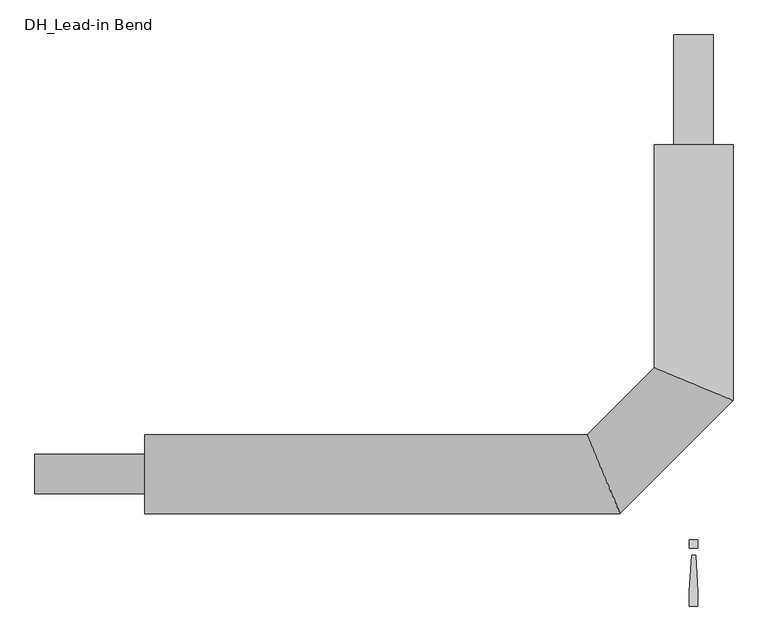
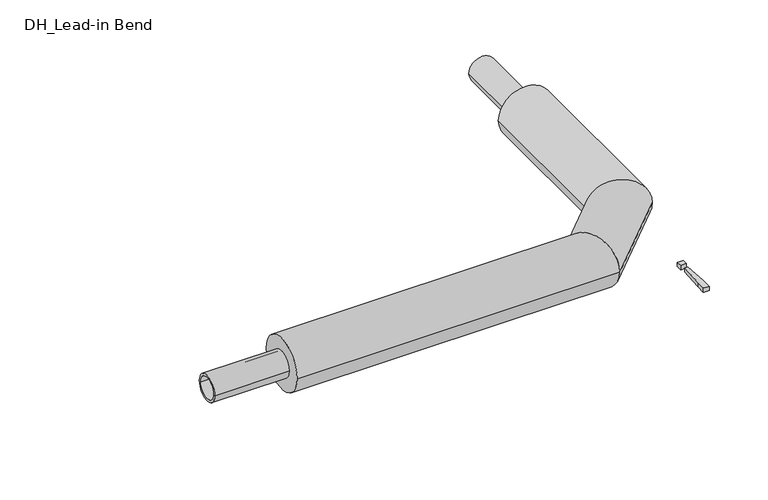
"""IFC4 building model written with IfcOpenShell, lengths in millimetres: pipe fitting geometry, DH_Lead-in Bend : INSULPEX UNO + 11 Heating."""

from ifc_helpers import new_model, si_unit, point, frame, origin, origin_with_axes, origin_2d, place, context, project, spatial, polyline, circle_curve, ellipse_curve, trimmed, segment, composite_curve, outline, extrude, source, transform, mapped, element, save
from ifc_brep_helpers import plane_surface, cylinder_surface, advanced_brep


def dh_lead_in_bend_d4395a4c(model_context):
    return source(origin(), model_context, "Body", "SolidModel", [
        advanced_brep(
        [(-1250.0, -90.0, 0.0), (-1250.0, 90.0, 0.0), (-167.7207794, -90.0, 0.0), (-242.2792206, 90.0, 0.0), (90.0, 750.0, 0.0), (-90.0, 750.0, 0.0), (-90.0, 242.2792206, 0.0), (90.0, 167.7207794, 0.0)],
        [
            (0, 1, circle_curve(frame((-1250.0, 0.0, 0.0), z_axis=(-1.0, 0.0, 0.0), x_axis=(0.0, 1.0, 0.0)), 90.0)),
            (1, 0, circle_curve(frame((-1250.0, 0.0, 0.0), z_axis=(-1.0, 0.0, 0.0), x_axis=(0.0, 1.0, 0.0)), 90.0)),
            (0, 2),
            (2, 3, ellipse_curve(frame((-205.0, 0.0, 0.0), z_axis=(-0.9238795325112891, -0.3826834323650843, 0.0), x_axis=(-0.38268343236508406, 0.9238795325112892, 0.0)), 97.415298, 90.0)),
            (3, 1),
            (3, 2, ellipse_curve(frame((-205.0, 0.0, 0.0), z_axis=(-0.9238795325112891, -0.3826834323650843, 0.0), x_axis=(-0.38268343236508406, 0.9238795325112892, 0.0)), 97.415298, 90.0)),
            (4, 5, circle_curve(frame((0.0, 750.0, 0.0), z_axis=(0.0, 1.0, 0.0), x_axis=(-1.0, 0.0, 0.0)), 90.0)),
            (5, 4, circle_curve(frame((0.0, 750.0, 0.0), z_axis=(0.0, 1.0, 0.0), x_axis=(-1.0, 0.0, 0.0)), 90.0)),
            (6, 7, ellipse_curve(frame((0.0, 205.0, 0.0), z_axis=(0.3826834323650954, 0.9238795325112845, 0.0), x_axis=(0.9238795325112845, -0.38268343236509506, 0.0)), 97.415298, 90.0)),
            (7, 4),
            (5, 6),
            (7, 6, ellipse_curve(frame((0.0, 205.0, 0.0), z_axis=(0.3826834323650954, 0.9238795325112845, 0.0), x_axis=(0.9238795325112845, -0.38268343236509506, 0.0)), 97.415298, 90.0)),
            (2, 7),
            (6, 3),
        ],
        [
            plane_surface(frame((-1250.0, 0.0, 0.0), z_axis=(-1.0, 0.0, 0.0), x_axis=(0.0, 0.0, 1.0))),
            cylinder_surface(frame((-1250.0, 0.0, 0.0), z_axis=(-1.0, 0.0, 0.0), x_axis=(0.0, 1.0, 0.0)), 90.0),
            plane_surface(frame((0.0, 750.0, 0.0), z_axis=(0.0, 1.0, 0.0), x_axis=(0.0, 0.0, 1.0))),
            cylinder_surface(frame((0.0, 205.0, 0.0), z_axis=(0.0, -1.0, 0.0), x_axis=(-1.0, 0.0, 0.0)), 90.0),
            cylinder_surface(frame((-205.0, 0.0, 0.0), z_axis=(-0.707106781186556, -0.7071067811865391, 0.0), x_axis=(-0.7071067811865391, 0.707106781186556, 0.0)), 90.0),
        ],
        [
            (0, [[1, 2]]),
            (1, [[-1, 3, 4, 5]]),
            (1, [[-2, -5, 6, -3]]),
            (2, [[7, 8]]),
            (3, [[9, 10, -8, 11]]),
            (3, [[12, -11, -7, -10]]),
            (4, [[-4, 13, -9, 14]]),
            (4, [[-6, -14, -12, -13]]),
        ],
    ),
        extrude(outline(polyline([(4.7088895, -185.3166715), (9.4177791, -266.6553807), (9.4177791, -300.6844652), (-9.4177791, -300.6844652), (-9.4177791, -266.6553807), (-4.7088895, -185.3166715), (4.7088895, -185.3166715)])), origin_with_axes(), (0.0, 0.0, 1.0), 15.0),
        extrude(outline(polyline([(9.4177791, -150.0), (9.4177791, -168.8355582), (-9.4177791, -168.8355582), (-9.4177791, -150.0), (9.4177791, -150.0)])), origin_with_axes(), (0.0, 0.0, 1.0), 15.0),
        extrude(outline(composite_curve([segment(trimmed(circle_curve(origin_2d(), 45.0), [point((-45.0, 0.0))], [point((45.0, 0.0))], False, "CARTESIAN"), True, "CONTINUOUS"), segment(trimmed(circle_curve(origin_2d(), 45.0), [point((45.0, 0.0))], [point((-45.0, 0.0))], False, "CARTESIAN"), True, "CONTINUOUS")], self_intersect=False), holes=[composite_curve([segment(trimmed(circle_curve(origin_2d(), 36.8), [point((-36.8, 0.0))], [point((36.8, 0.0))], True, "CARTESIAN"), True, "CONTINUOUS"), segment(trimmed(circle_curve(origin_2d(), 36.8), [point((36.8, 0.0))], [point((-36.8, 0.0))], True, "CARTESIAN"), True, "CONTINUOUS")], self_intersect=False)]), frame((-1500.0, 0.0, 0.0), z_axis=(1.0, 0.0, 0.0), x_axis=(0.0, 1.0, 0.0)), (0.0, 0.0, 1.0), 250.0),
        extrude(outline(composite_curve([segment(trimmed(circle_curve(origin_2d(), 45.0), [point((0.0, 45.0))], [point((0.0, -45.0))], False, "CARTESIAN"), True, "CONTINUOUS"), segment(trimmed(circle_curve(origin_2d(), 45.0), [point((0.0, -45.0))], [point((0.0, 45.0))], False, "CARTESIAN"), True, "CONTINUOUS")], self_intersect=False), holes=[composite_curve([segment(trimmed(circle_curve(origin_2d(), 36.8), [point((0.0, 36.8))], [point((0.0, -36.8))], True, "CARTESIAN"), True, "CONTINUOUS"), segment(trimmed(circle_curve(origin_2d(), 36.8), [point((0.0, -36.8))], [point((0.0, 36.8))], True, "CARTESIAN"), True, "CONTINUOUS")], self_intersect=False)]), frame((0.0, 750.0, 0.0), z_axis=(0.0, 1.0, 0.0), x_axis=(0.0, 0.0, 1.0)), (0.0, 0.0, 1.0), 250.0),
    ])


if __name__ == "__main__":
    model = new_model("IFC4")
    model_context = context("Model", 3, world=origin())
    ifc_project = project(units=[si_unit("LENGTHUNIT", "METRE", prefix="MILLI")], contexts=[model_context])
    site = spatial("IfcSite", under=ifc_project)
    building = spatial("IfcBuilding", under=site)
    placement = place(None, origin())
    dh_lead_in_bend_shape = dh_lead_in_bend_d4395a4c(model_context)
    element("IfcPipeFitting", 1, ObjectType="DH_Lead-in Bend : INSULPEX UNO + 11 Heating", at=placement, inside=building, context=model_context, shape_type="MappedRepresentation", body=[
        mapped(dh_lead_in_bend_shape, transform((0.0, 0.0, 0.0), x_axis=(1.0, 0.0, 0.0), y_axis=(0.0, 1.0, 0.0), z_axis=(0.0, 0.0, 1.0))),
    ])
    save(model, "model.ifc")
